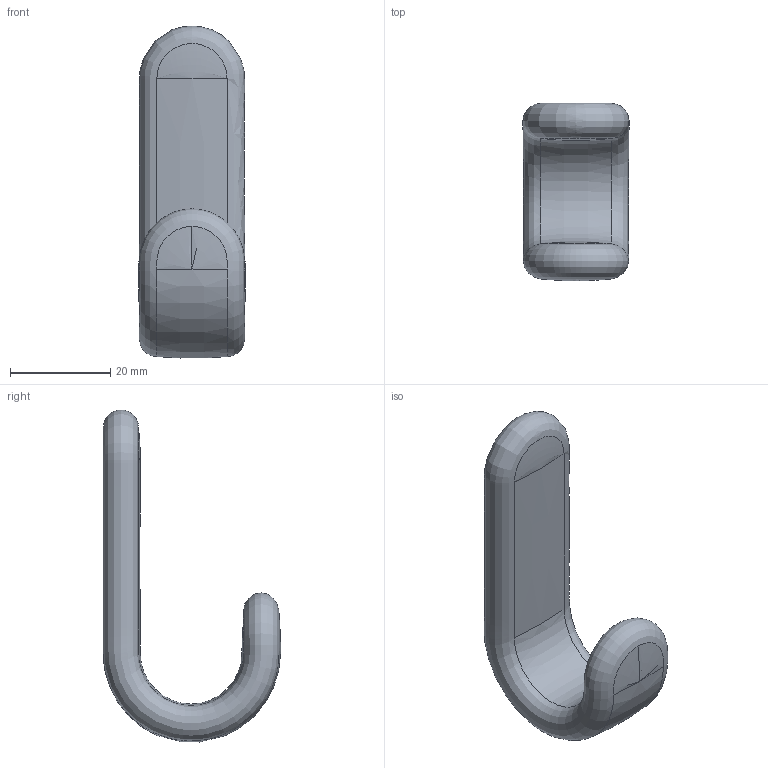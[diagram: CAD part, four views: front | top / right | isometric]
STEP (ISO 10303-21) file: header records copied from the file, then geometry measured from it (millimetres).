
FILE_DESCRIPTION(/* description */ (''),/* implementation_level */ '2;1');
FILE_NAME(/* name */ 'THIRD3~1',/* time_stamp */ '2023-09-05T13:24:32+02:00',/* author */ (''),/* organization */ (''),/* preprocessor_version */ 'ST-DEVELOPER v16.5',/* originating_system */ '',/* authorisation */ '');
FILE_SCHEMA (('AUTOMOTIVE_DESIGN'));
Length unit declared in the file: millimetre
Products named in the file (1): Document
Bounding box: 21.28 x 35.38 x 66.25 mm (x, y, z)
Volume: 13895.6 mm3; surface area: 5128 mm2
Topology: 1 solids, 1 shells, 11 faces, 33 edges, 18 vertices
Faces by surface type: bspline 11
Entity records: 3512 total; most frequent: CARTESIAN_POINT 3157, B_SPLINE_CURVE_WITH_KNOTS 61, ORIENTED_EDGE 54, PCURVE 54, DEFINITIONAL_REPRESENTATION 54, SURFACE_CURVE 27, EDGE_CURVE 27, VERTEX_POINT 18
